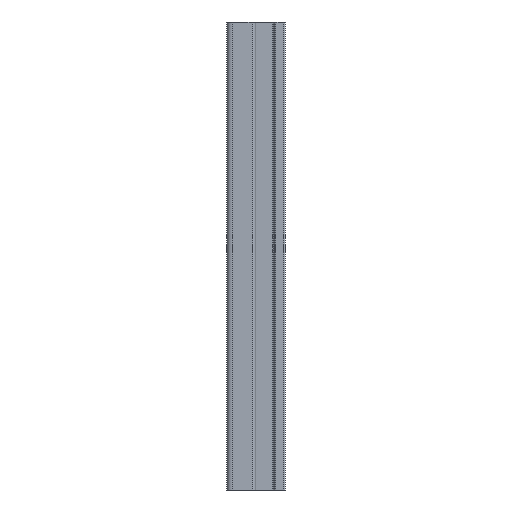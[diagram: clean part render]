
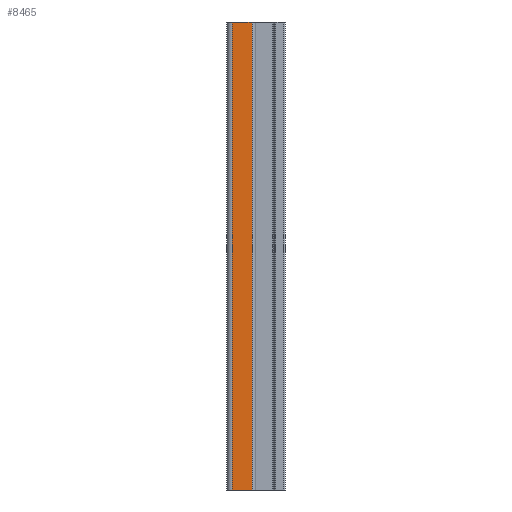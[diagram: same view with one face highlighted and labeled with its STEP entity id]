
A CAD part, front view. The second image highlights one B-rep face of the part: STEP entity #8465.
In plain terms, the highlighted planar face has unit normal (0, -1, 0).
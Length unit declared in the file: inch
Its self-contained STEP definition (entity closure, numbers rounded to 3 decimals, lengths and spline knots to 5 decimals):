
#162 = CARTESIAN_POINT ( 'NONE',  ( 0.07, -0.8594, -6. ) ) ;
#211 = AXIS2_PLACEMENT_3D ( 'NONE', #5339, #819, #6095 ) ;
#287 = DIRECTION ( 'NONE',  ( 1., 0., 0. ) ) ;
#395 = LINE ( 'NONE', #8904, #4449 ) ;
#699 = CARTESIAN_POINT ( 'NONE',  ( 0.326, -0.8594, -6. ) ) ;
#819 = DIRECTION ( 'NONE',  ( 0., -1., 0. ) ) ;
#902 = ORIENTED_EDGE ( 'NONE', *, *, #7917, .T. ) ;
#980 = CARTESIAN_POINT ( 'NONE',  ( 0.07, -0.8594, -6. ) ) ;
#1093 = EDGE_CURVE ( 'NONE', #6096, #7602, #9583, .T. ) ;
#1098 = VECTOR ( 'NONE', #287, 39.37008 ) ;
#2217 = ORIENTED_EDGE ( 'NONE', *, *, #4265, .T. ) ;
#2424 = EDGE_LOOP ( 'NONE', ( #8770, #8401, #902, #2217 ) ) ;
#2495 = VECTOR ( 'NONE', #4986, 39.37008 ) ;
#2952 = CARTESIAN_POINT ( 'NONE',  ( 0.326, -0.8594, 0. ) ) ;
#3819 = PLANE ( 'NONE',  #211 ) ;
#4091 = CARTESIAN_POINT ( 'NONE',  ( 0.07, -0.8594, 0. ) ) ;
#4265 = EDGE_CURVE ( 'NONE', #4705, #5797, #8555, .T. ) ;
#4348 = DIRECTION ( 'NONE',  ( 1., 0., 0. ) ) ;
#4449 = VECTOR ( 'NONE', #4348, 39.37008 ) ;
#4705 = VERTEX_POINT ( 'NONE', #699 ) ;
#4986 = DIRECTION ( 'NONE',  ( 0., 0., 1. ) ) ;
#5339 = CARTESIAN_POINT ( 'NONE',  ( 0.07, -0.8594, -6. ) ) ;
#5481 = FACE_OUTER_BOUND ( 'NONE', #2424, .T. ) ;
#5797 = VERTEX_POINT ( 'NONE', #2952 ) ;
#6095 = DIRECTION ( 'NONE',  ( 0., 0., -1. ) ) ;
#6096 = VERTEX_POINT ( 'NONE', #162 ) ;
#6918 = CARTESIAN_POINT ( 'NONE',  ( 0.07, -0.8594, 0. ) ) ;
#7017 = DIRECTION ( 'NONE',  ( 0., 0., 1. ) ) ;
#7124 = LINE ( 'NONE', #4091, #1098 ) ;
#7529 = EDGE_CURVE ( 'NONE', #7602, #5797, #7124, .T. ) ;
#7541 = VECTOR ( 'NONE', #7017, 39.37008 ) ;
#7602 = VERTEX_POINT ( 'NONE', #6918 ) ;
#7917 = EDGE_CURVE ( 'NONE', #6096, #4705, #395, .T. ) ;
#8401 = ORIENTED_EDGE ( 'NONE', *, *, #1093, .F. ) ;
#8465 = ADVANCED_FACE ( 'NONE', ( #5481 ), #3819, .T. ) ;
#8555 = LINE ( 'NONE', #8785, #2495 ) ;
#8770 = ORIENTED_EDGE ( 'NONE', *, *, #7529, .F. ) ;
#8785 = CARTESIAN_POINT ( 'NONE',  ( 0.326, -0.8594, -6. ) ) ;
#8904 = CARTESIAN_POINT ( 'NONE',  ( 0.07, -0.8594, -6. ) ) ;
#9583 = LINE ( 'NONE', #980, #7541 ) ;
